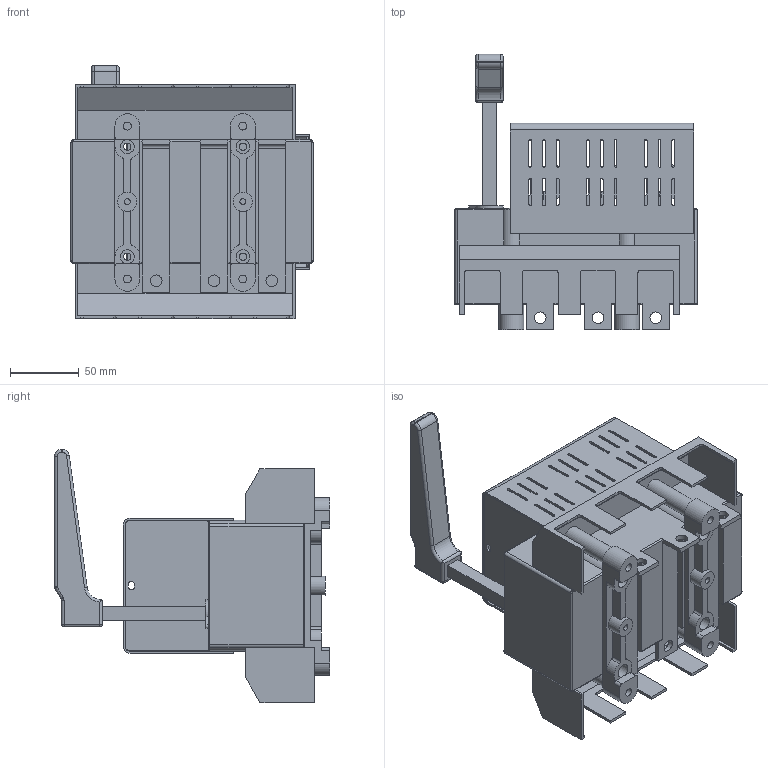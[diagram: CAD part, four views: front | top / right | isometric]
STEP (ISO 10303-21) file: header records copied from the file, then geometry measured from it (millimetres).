
FILE_DESCRIPTION(/* description */ (''),/* implementation_level */ '2;1');
FILE_NAME(/* name */ 'RAB 00 P3 A.stp',/* time_stamp */ '2021-08-19T11:08:08+02:00',/* author */ (''),/* organization */ (''),/* preprocessor_version */ 'ST-DEVELOPER v18.1',/* originating_system */ 'SIEMENS PLM Software NX 1965',/* authorisation */ '');
FILE_SCHEMA (('PROCESS_PLANNING_SCHEMA'));
Length unit declared in the file: millimetre
Products named in the file (1): RAB 00 P3 A
Bounding box: 176 x 200 x 183.9 mm (x, y, z)
Volume: 1330079.1 mm3; surface area: 299935.1 mm2
Topology: 4 solids, 4 shells, 1070 faces, 3002 edges, 1961 vertices
Faces by surface type: plane 661, cylinder 383, torus 12, bspline 8, sphere 6
Full cylindrical faces by diameter (mm): 2.7 x4, 4.3 x2, 5 x6, 5.2 x6, 5.3 x4, 5.8 x4, 8.5 x6, 10 x12, 13 x4, 14 x2
Entity records: 35280 total; most frequent: CARTESIAN_POINT 6477, ORIENTED_EDGE 5824, DIRECTION 5802, EDGE_CURVE 2912, LINE 2072, VECTOR 2072, VERTEX_POINT 1910, AXIS2_PLACEMENT_3D 1865
